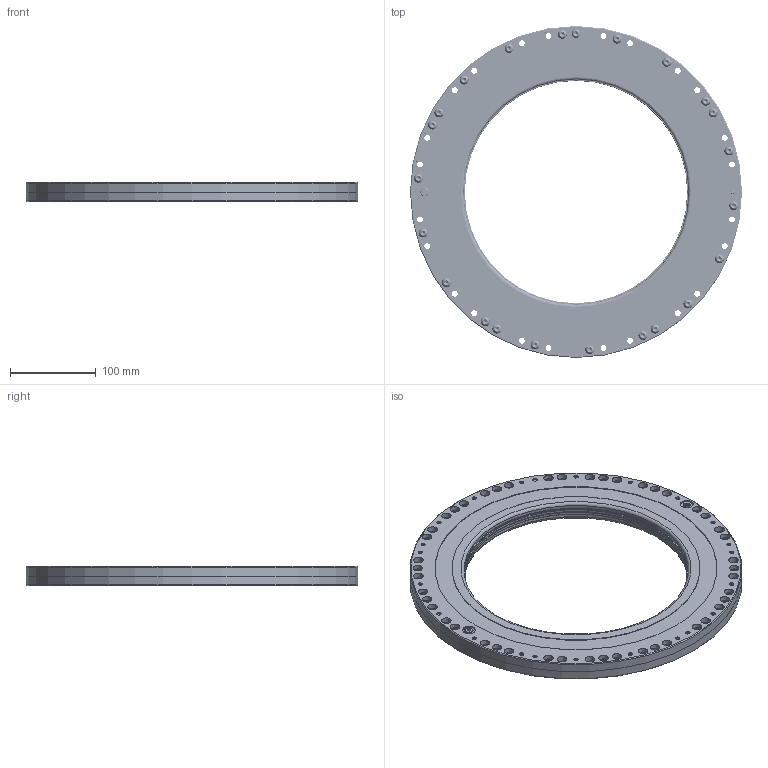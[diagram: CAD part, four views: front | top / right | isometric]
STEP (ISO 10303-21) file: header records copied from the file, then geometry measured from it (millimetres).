
FILE_DESCRIPTION(/* description */ ('Unknown'),/* implementation_level */ '2;1');
FILE_NAME(/* name */ '10032594_RC 260 N_6bar+booster',/* time_stamp */ '2025-08-05T15:11:18+02:00',/* author */ ('Unknown'),/* organization */ ('Unknown'),/* preprocessor_version */ 'ST-DEVELOPER v19.4',/* originating_system */ 'Solid Edge',/* authorisation */ 'Unknown');
FILE_SCHEMA (('CONFIG_CONTROL_DESIGN'));
Length unit declared in the file: millimetre
Products named in the file (7): 10032594; Linsenkopfschraube ISO 7380 TX M6 x 14 Ph 012.9; 34-00-0004-e001; 34-06-0064-e001; Gewindestift DIN 913 - M6x4 VA; 34-06-0051-e001; Verschlussschraube G1;8 x 4,5
Assembly tree (54 placements, depth 2):
  10032594
    Linsenkopfschraube ISO 7380 TX M6 x 14 Ph 012.9  x46
    34-00-0004-e001  x2
    34-06-0064-e001
    Gewindestift DIN 913 - M6x4 VA
    34-06-0051-e001
    Verschlussschraube G1;8 x 4,5  x3
Bounding box: 388 x 388 x 22.4 mm (x, y, z)
Volume: 1324331.9 mm3; surface area: 363583.8 mm2
Topology: 54 solids, 54 shells, 2427 faces, 5804 edges, 3623 vertices
Faces by surface type: cylinder 1495, cone 394, plane 301, torus 191, sphere 46
Full cylindrical faces by diameter (mm): 1.5 x5, 4.917 x47, 5.6 x46, 6 x94, 6.8 x95, 7.4 x1, 8.4 x1, 8.566 x4, 9.728 x4, 10.5 x46, 11 x96, 15 x4, 260 x2, 265 x2, 290 x2, 330 x2, 388 x2
Entity records: 12065 total; most frequent: CARTESIAN_POINT 2712, DIRECTION 1448, ORIENTED_EDGE 1142, FACE_BOUND 708, EDGE_LOOP 706, AXIS2_PLACEMENT_3D 673, EDGE_CURVE 571, VERTEX_POINT 469
